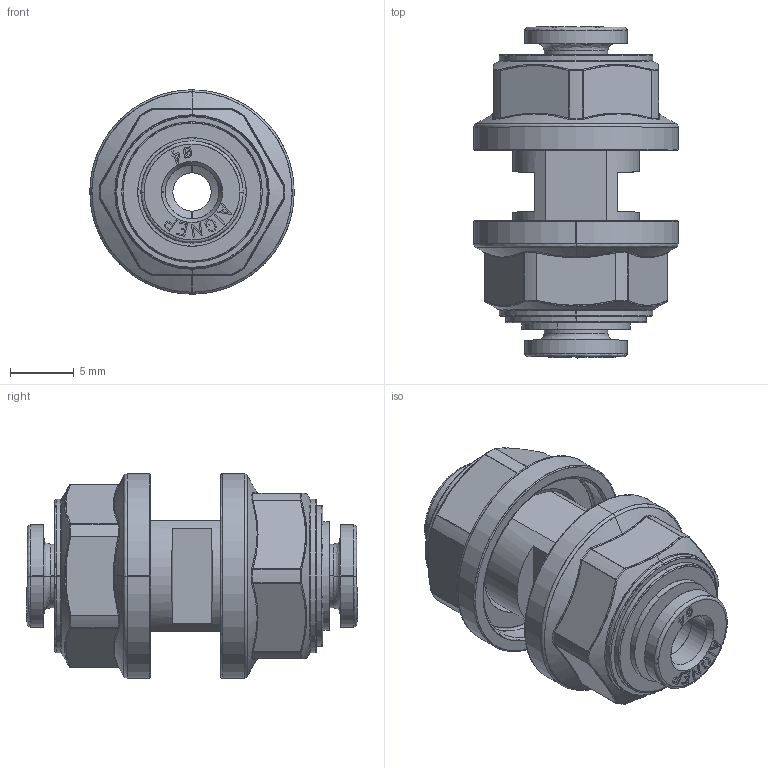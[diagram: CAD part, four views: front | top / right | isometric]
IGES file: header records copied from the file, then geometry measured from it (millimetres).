
Start section: SolidWorks IGES file using analytic representation for surfaces
Global section: file name: K:\Disegni Esecutivi\SERIE 54000\54000-Assiemi\54050\Iges\5405000001A.IGS; native system: SolidWorks 2020; preprocessor: SolidWorks 2020; author: CAD13; date: 240918.140449; units: millimetre
Bounding box: 16 x 26 x 16 mm (x, y, z)
Surface area: 2555.9 mm2 (no closed solid volume)
Topology: 0 solids, 0 shells, 678 faces, 5128 edges, 5120 vertices
Faces by surface type: bspline 537, revolution 141
